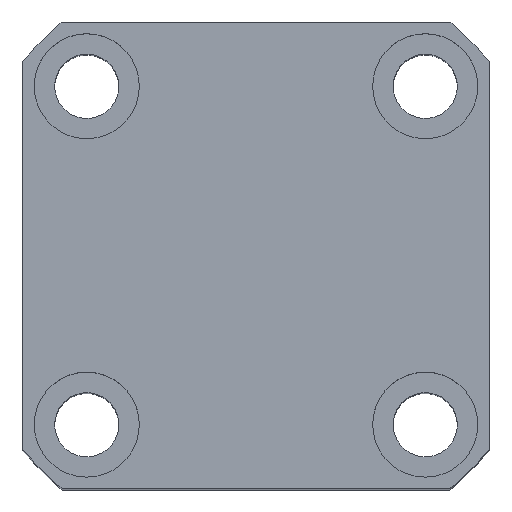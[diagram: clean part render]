
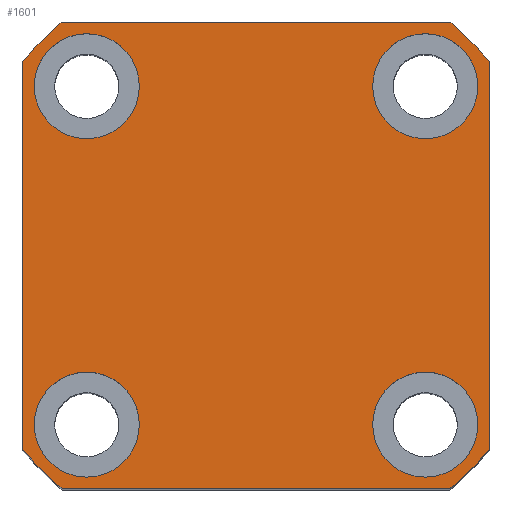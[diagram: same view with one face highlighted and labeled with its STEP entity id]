
A CAD part, top view. The second image highlights one B-rep face of the part: STEP entity #1601.
In plain terms, the highlighted planar face has unit normal (0, 0, 1).
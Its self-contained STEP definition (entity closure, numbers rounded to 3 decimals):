
#77 = CARTESIAN_POINT ( 'NONE',  ( -40., -33.226, 57.5 ) ) ;
#390 = DIRECTION ( 'NONE',  ( -1., 0., 0. ) ) ;
#396 = VERTEX_POINT ( 'NONE', #9000 ) ;
#595 = CARTESIAN_POINT ( 'NONE',  ( -38., 29., 57.5 ) ) ;
#604 = EDGE_LOOP ( 'NONE', ( #823, #2575 ) ) ;
#635 = DIRECTION ( 'NONE',  ( 1., 0., 0. ) ) ;
#640 = CIRCLE ( 'NONE', #7186, 9. ) ;
#665 = FACE_BOUND ( 'NONE', #1260, .T. ) ;
#823 = ORIENTED_EDGE ( 'NONE', *, *, #9147, .F. ) ;
#1036 = CARTESIAN_POINT ( 'NONE',  ( 33.226, 40., 57.5 ) ) ;
#1085 = DIRECTION ( 'NONE',  ( 0., 0., 1. ) ) ;
#1139 = CARTESIAN_POINT ( 'NONE',  ( 40., -30., 57.5 ) ) ;
#1202 = VECTOR ( 'NONE', #6803, 1000. ) ;
#1215 = CIRCLE ( 'NONE', #8851, 9. ) ;
#1260 = EDGE_LOOP ( 'NONE', ( #8862, #9136 ) ) ;
#1296 = ORIENTED_EDGE ( 'NONE', *, *, #9903, .F. ) ;
#1313 = VECTOR ( 'NONE', #390, 1000. ) ;
#1578 = FACE_BOUND ( 'NONE', #604, .T. ) ;
#1601 = ADVANCED_FACE ( 'NONE', ( #1854, #7914, #1578, #665, #10757 ), #2539, .T. ) ;
#1631 = EDGE_CURVE ( 'NONE', #2065, #8104, #5672, .T. ) ;
#1785 = EDGE_LOOP ( 'NONE', ( #3772, #5190 ) ) ;
#1839 = LINE ( 'NONE', #8455, #1202 ) ;
#1854 = FACE_BOUND ( 'NONE', #6748, .T. ) ;
#1890 = DIRECTION ( 'NONE',  ( 1., 0., 0. ) ) ;
#1897 = VERTEX_POINT ( 'NONE', #8474 ) ;
#1899 = VERTEX_POINT ( 'NONE', #77 ) ;
#1943 = ORIENTED_EDGE ( 'NONE', *, *, #8386, .T. ) ;
#1961 = CARTESIAN_POINT ( 'NONE',  ( 20., -29., 57.5 ) ) ;
#2065 = VERTEX_POINT ( 'NONE', #1961 ) ;
#2416 = VERTEX_POINT ( 'NONE', #3741 ) ;
#2478 = EDGE_CURVE ( 'NONE', #5735, #4820, #1215, .T. ) ;
#2539 = PLANE ( 'NONE',  #10017 ) ;
#2575 = ORIENTED_EDGE ( 'NONE', *, *, #3057, .F. ) ;
#2586 = DIRECTION ( 'NONE',  ( 1., 0., 0. ) ) ;
#2741 = CARTESIAN_POINT ( 'NONE',  ( 29., 29., 57.5 ) ) ;
#2789 = CARTESIAN_POINT ( 'NONE',  ( 20., 29., 57.5 ) ) ;
#2909 = CIRCLE ( 'NONE', #7449, 9. ) ;
#2996 = EDGE_CURVE ( 'NONE', #4572, #1899, #1839, .T. ) ;
#3039 = CIRCLE ( 'NONE', #5435, 52. ) ;
#3057 = EDGE_CURVE ( 'NONE', #8107, #5625, #10096, .T. ) ;
#3221 = CARTESIAN_POINT ( 'NONE',  ( 38., -29., 57.5 ) ) ;
#3303 = DIRECTION ( 'NONE',  ( 0., 0., 1. ) ) ;
#3312 = EDGE_CURVE ( 'NONE', #1899, #396, #3939, .T. ) ;
#3350 = VERTEX_POINT ( 'NONE', #1036 ) ;
#3374 = CARTESIAN_POINT ( 'NONE',  ( 0., 0., 57.5 ) ) ;
#3389 = DIRECTION ( 'NONE',  ( 0., 0., 1. ) ) ;
#3697 = CIRCLE ( 'NONE', #7830, 9. ) ;
#3724 = CARTESIAN_POINT ( 'NONE',  ( -33.226, 40., 57.5 ) ) ;
#3741 = CARTESIAN_POINT ( 'NONE',  ( 40., 33.226, 57.5 ) ) ;
#3762 = ORIENTED_EDGE ( 'NONE', *, *, #8117, .T. ) ;
#3772 = ORIENTED_EDGE ( 'NONE', *, *, #2478, .F. ) ;
#3939 = CIRCLE ( 'NONE', #7529, 52. ) ;
#3983 = DIRECTION ( 'NONE',  ( 1., 0., 0. ) ) ;
#4043 = CIRCLE ( 'NONE', #6542, 9. ) ;
#4327 = DIRECTION ( 'NONE',  ( 0., 0., 1. ) ) ;
#4420 = DIRECTION ( 'NONE',  ( 0., 0., 1. ) ) ;
#4499 = CARTESIAN_POINT ( 'NONE',  ( 0., 0., 57.5 ) ) ;
#4555 = ORIENTED_EDGE ( 'NONE', *, *, #7201, .T. ) ;
#4572 = VERTEX_POINT ( 'NONE', #8316 ) ;
#4769 = EDGE_LOOP ( 'NONE', ( #4555, #6507, #1943, #8902, #3762, #10462, #9578, #5347 ) ) ;
#4782 = DIRECTION ( 'NONE',  ( 1., 0., 0. ) ) ;
#4820 = VERTEX_POINT ( 'NONE', #9473 ) ;
#4881 = AXIS2_PLACEMENT_3D ( 'NONE', #7716, #4327, #10211 ) ;
#4895 = CARTESIAN_POINT ( 'NONE',  ( -29., 29., 57.5 ) ) ;
#4919 = VERTEX_POINT ( 'NONE', #7861 ) ;
#4954 = LINE ( 'NONE', #1139, #10619 ) ;
#5052 = EDGE_CURVE ( 'NONE', #396, #4919, #6807, .T. ) ;
#5169 = VERTEX_POINT ( 'NONE', #3724 ) ;
#5190 = ORIENTED_EDGE ( 'NONE', *, *, #6846, .F. ) ;
#5293 = EDGE_CURVE ( 'NONE', #1897, #2416, #4954, .T. ) ;
#5347 = ORIENTED_EDGE ( 'NONE', *, *, #5052, .T. ) ;
#5355 = CARTESIAN_POINT ( 'NONE',  ( -33.226, 40., 57.5 ) ) ;
#5435 = AXIS2_PLACEMENT_3D ( 'NONE', #9539, #4420, #1890 ) ;
#5473 = CARTESIAN_POINT ( 'NONE',  ( 0., 0., 57.5 ) ) ;
#5542 = CIRCLE ( 'NONE', #9868, 52. ) ;
#5625 = VERTEX_POINT ( 'NONE', #7321 ) ;
#5672 = CIRCLE ( 'NONE', #4881, 9. ) ;
#5735 = VERTEX_POINT ( 'NONE', #5914 ) ;
#5745 = DIRECTION ( 'NONE',  ( 0., 0., 1. ) ) ;
#5914 = CARTESIAN_POINT ( 'NONE',  ( -20., -29., 57.5 ) ) ;
#5915 = CARTESIAN_POINT ( 'NONE',  ( 0., 0., 57.5 ) ) ;
#5936 = ORIENTED_EDGE ( 'NONE', *, *, #1631, .F. ) ;
#6149 = DIRECTION ( 'NONE',  ( 0., 0., 1. ) ) ;
#6181 = DIRECTION ( 'NONE',  ( 0., 1., 0. ) ) ;
#6185 = VECTOR ( 'NONE', #9984, 1000. ) ;
#6323 = DIRECTION ( 'NONE',  ( 0., 0., 1. ) ) ;
#6480 = DIRECTION ( 'NONE',  ( 0., 0., 1. ) ) ;
#6507 = ORIENTED_EDGE ( 'NONE', *, *, #5293, .T. ) ;
#6542 = AXIS2_PLACEMENT_3D ( 'NONE', #4895, #5745, #3983 ) ;
#6617 = CARTESIAN_POINT ( 'NONE',  ( -29., -29., 57.5 ) ) ;
#6748 = EDGE_LOOP ( 'NONE', ( #1296, #5936 ) ) ;
#6775 = DIRECTION ( 'NONE',  ( 1., 0., 0. ) ) ;
#6803 = DIRECTION ( 'NONE',  ( 0., -1., 0. ) ) ;
#6807 = LINE ( 'NONE', #9232, #6185 ) ;
#6829 = CIRCLE ( 'NONE', #7661, 52. ) ;
#6846 = EDGE_CURVE ( 'NONE', #4820, #5735, #9076, .T. ) ;
#6957 = DIRECTION ( 'NONE',  ( 1., 0., 0. ) ) ;
#6993 = DIRECTION ( 'NONE',  ( 0., 0., 1. ) ) ;
#7083 = LINE ( 'NONE', #5355, #1313 ) ;
#7087 = AXIS2_PLACEMENT_3D ( 'NONE', #7610, #3389, #6775 ) ;
#7186 = AXIS2_PLACEMENT_3D ( 'NONE', #9726, #8025, #4782 ) ;
#7201 = EDGE_CURVE ( 'NONE', #4919, #1897, #5542, .T. ) ;
#7321 = CARTESIAN_POINT ( 'NONE',  ( -20., 29., 57.5 ) ) ;
#7333 = AXIS2_PLACEMENT_3D ( 'NONE', #10778, #6480, #635 ) ;
#7449 = AXIS2_PLACEMENT_3D ( 'NONE', #2741, #1085, #6957 ) ;
#7529 = AXIS2_PLACEMENT_3D ( 'NONE', #4499, #6993, #8691 ) ;
#7610 = CARTESIAN_POINT ( 'NONE',  ( -29., -29., 57.5 ) ) ;
#7661 = AXIS2_PLACEMENT_3D ( 'NONE', #5915, #3303, #7677 ) ;
#7677 = DIRECTION ( 'NONE',  ( 1., 0., 0. ) ) ;
#7678 = VERTEX_POINT ( 'NONE', #2789 ) ;
#7716 = CARTESIAN_POINT ( 'NONE',  ( 29., -29., 57.5 ) ) ;
#7830 = AXIS2_PLACEMENT_3D ( 'NONE', #8826, #6149, #8753 ) ;
#7861 = CARTESIAN_POINT ( 'NONE',  ( 33.226, -40., 57.5 ) ) ;
#7914 = FACE_BOUND ( 'NONE', #1785, .T. ) ;
#8025 = DIRECTION ( 'NONE',  ( 0., 0., 1. ) ) ;
#8104 = VERTEX_POINT ( 'NONE', #3221 ) ;
#8107 = VERTEX_POINT ( 'NONE', #595 ) ;
#8117 = EDGE_CURVE ( 'NONE', #5169, #4572, #6829, .T. ) ;
#8316 = CARTESIAN_POINT ( 'NONE',  ( -40., 33.226, 57.5 ) ) ;
#8367 = EDGE_CURVE ( 'NONE', #9131, #7678, #2909, .T. ) ;
#8386 = EDGE_CURVE ( 'NONE', #2416, #3350, #3039, .T. ) ;
#8455 = CARTESIAN_POINT ( 'NONE',  ( -40., 33.226, 57.5 ) ) ;
#8474 = CARTESIAN_POINT ( 'NONE',  ( 40., -33.226, 57.5 ) ) ;
#8691 = DIRECTION ( 'NONE',  ( 1., 0., 0. ) ) ;
#8748 = DIRECTION ( 'NONE',  ( 1., 0., 0. ) ) ;
#8753 = DIRECTION ( 'NONE',  ( 1., 0., 0. ) ) ;
#8826 = CARTESIAN_POINT ( 'NONE',  ( 29., 29., 57.5 ) ) ;
#8851 = AXIS2_PLACEMENT_3D ( 'NONE', #6617, #9980, #10727 ) ;
#8862 = ORIENTED_EDGE ( 'NONE', *, *, #8367, .F. ) ;
#8875 = EDGE_CURVE ( 'NONE', #7678, #9131, #3697, .T. ) ;
#8902 = ORIENTED_EDGE ( 'NONE', *, *, #10763, .T. ) ;
#9000 = CARTESIAN_POINT ( 'NONE',  ( -33.226, -40., 57.5 ) ) ;
#9028 = CARTESIAN_POINT ( 'NONE',  ( 38., 29., 57.5 ) ) ;
#9076 = CIRCLE ( 'NONE', #7087, 9. ) ;
#9131 = VERTEX_POINT ( 'NONE', #9028 ) ;
#9136 = ORIENTED_EDGE ( 'NONE', *, *, #8875, .F. ) ;
#9147 = EDGE_CURVE ( 'NONE', #5625, #8107, #4043, .T. ) ;
#9232 = CARTESIAN_POINT ( 'NONE',  ( -33.226, -40., 57.5 ) ) ;
#9473 = CARTESIAN_POINT ( 'NONE',  ( -38., -29., 57.5 ) ) ;
#9539 = CARTESIAN_POINT ( 'NONE',  ( 0., 0., 57.5 ) ) ;
#9578 = ORIENTED_EDGE ( 'NONE', *, *, #3312, .T. ) ;
#9726 = CARTESIAN_POINT ( 'NONE',  ( 29., -29., 57.5 ) ) ;
#9868 = AXIS2_PLACEMENT_3D ( 'NONE', #5473, #6323, #8748 ) ;
#9903 = EDGE_CURVE ( 'NONE', #8104, #2065, #640, .T. ) ;
#9980 = DIRECTION ( 'NONE',  ( 0., 0., 1. ) ) ;
#9984 = DIRECTION ( 'NONE',  ( 1., 0., 0. ) ) ;
#10017 = AXIS2_PLACEMENT_3D ( 'NONE', #3374, #10090, #2586 ) ;
#10090 = DIRECTION ( 'NONE',  ( 0., 0., 1. ) ) ;
#10096 = CIRCLE ( 'NONE', #7333, 9. ) ;
#10211 = DIRECTION ( 'NONE',  ( 1., 0., 0. ) ) ;
#10462 = ORIENTED_EDGE ( 'NONE', *, *, #2996, .T. ) ;
#10619 = VECTOR ( 'NONE', #6181, 1000. ) ;
#10727 = DIRECTION ( 'NONE',  ( 1., 0., 0. ) ) ;
#10757 = FACE_OUTER_BOUND ( 'NONE', #4769, .T. ) ;
#10763 = EDGE_CURVE ( 'NONE', #3350, #5169, #7083, .T. ) ;
#10778 = CARTESIAN_POINT ( 'NONE',  ( -29., 29., 57.5 ) ) ;
